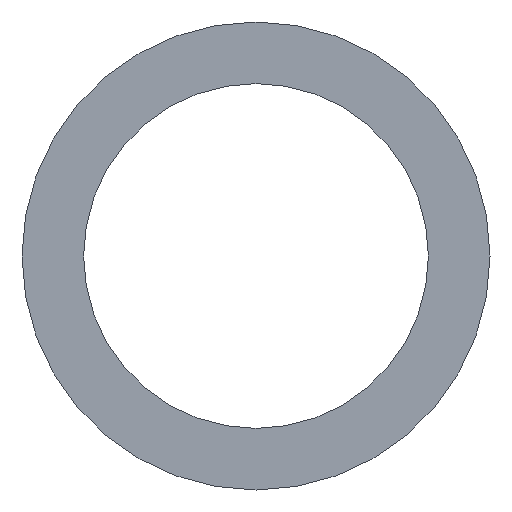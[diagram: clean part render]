
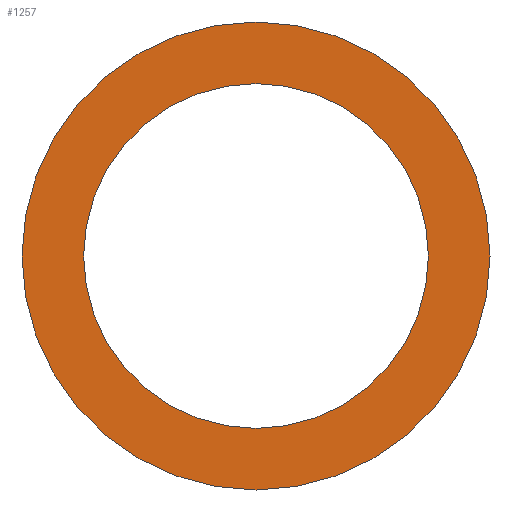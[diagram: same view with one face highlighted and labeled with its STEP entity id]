
A CAD part, front view. The second image highlights one B-rep face of the part: STEP entity #1257.
In plain terms, the highlighted planar face has unit normal (0, -1, 0).
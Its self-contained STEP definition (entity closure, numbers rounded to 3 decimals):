
#165 = CARTESIAN_POINT ( 'NONE',  ( 0., -27., 0. ) ) ;
#337 = AXIS2_PLACEMENT_3D ( 'NONE', #165, #2075, #1402 ) ;
#525 = VERTEX_POINT ( 'NONE', #2875 ) ;
#671 = CARTESIAN_POINT ( 'NONE',  ( 0., -27., 0. ) ) ;
#687 = DIRECTION ( 'NONE',  ( 0., -1., 0. ) ) ;
#698 = DIRECTION ( 'NONE',  ( 0., 0., -1. ) ) ;
#785 = AXIS2_PLACEMENT_3D ( 'NONE', #3582, #1703, #698 ) ;
#833 = CARTESIAN_POINT ( 'NONE',  ( 0., -27., 0. ) ) ;
#884 = VERTEX_POINT ( 'NONE', #3834 ) ;
#1074 = CIRCLE ( 'NONE', #2477, 95. ) ;
#1110 = EDGE_LOOP ( 'NONE', ( #2050, #3095 ) ) ;
#1155 = EDGE_LOOP ( 'NONE', ( #1565, #2563 ) ) ;
#1257 = ADVANCED_FACE ( 'NONE', ( #2657, #3444 ), #2269, .F. ) ;
#1265 = DIRECTION ( 'NONE',  ( 0., 1., 0. ) ) ;
#1402 = DIRECTION ( 'NONE',  ( 0., 0., -1. ) ) ;
#1565 = ORIENTED_EDGE ( 'NONE', *, *, #2083, .F. ) ;
#1703 = DIRECTION ( 'NONE',  ( 0., -1., 0. ) ) ;
#1824 = CIRCLE ( 'NONE', #337, 95. ) ;
#1846 = EDGE_CURVE ( 'NONE', #2296, #525, #2907, .T. ) ;
#1862 = AXIS2_PLACEMENT_3D ( 'NONE', #833, #2124, #3425 ) ;
#1935 = CARTESIAN_POINT ( 'NONE',  ( 0., -27., 70. ) ) ;
#2050 = ORIENTED_EDGE ( 'NONE', *, *, #3474, .T. ) ;
#2075 = DIRECTION ( 'NONE',  ( 0., -1., 0. ) ) ;
#2083 = EDGE_CURVE ( 'NONE', #525, #2296, #3694, .T. ) ;
#2124 = DIRECTION ( 'NONE',  ( 0., -1., 0. ) ) ;
#2231 = CARTESIAN_POINT ( 'NONE',  ( 0., -27., 70. ) ) ;
#2269 = PLANE ( 'NONE',  #3025 ) ;
#2296 = VERTEX_POINT ( 'NONE', #1935 ) ;
#2299 = DIRECTION ( 'NONE',  ( 0., 0., -1. ) ) ;
#2477 = AXIS2_PLACEMENT_3D ( 'NONE', #671, #687, #2299 ) ;
#2545 = DIRECTION ( 'NONE',  ( 0., 0., 1. ) ) ;
#2563 = ORIENTED_EDGE ( 'NONE', *, *, #1846, .F. ) ;
#2616 = VERTEX_POINT ( 'NONE', #2829 ) ;
#2657 = FACE_BOUND ( 'NONE', #1155, .T. ) ;
#2829 = CARTESIAN_POINT ( 'NONE',  ( 0., -27., 95. ) ) ;
#2875 = CARTESIAN_POINT ( 'NONE',  ( 0., -27., -70. ) ) ;
#2907 = CIRCLE ( 'NONE', #785, 70. ) ;
#3025 = AXIS2_PLACEMENT_3D ( 'NONE', #2231, #1265, #2545 ) ;
#3095 = ORIENTED_EDGE ( 'NONE', *, *, #3442, .T. ) ;
#3425 = DIRECTION ( 'NONE',  ( 0., 0., -1. ) ) ;
#3442 = EDGE_CURVE ( 'NONE', #2616, #884, #1074, .T. ) ;
#3444 = FACE_OUTER_BOUND ( 'NONE', #1110, .T. ) ;
#3474 = EDGE_CURVE ( 'NONE', #884, #2616, #1824, .T. ) ;
#3582 = CARTESIAN_POINT ( 'NONE',  ( 0., -27., 0. ) ) ;
#3694 = CIRCLE ( 'NONE', #1862, 70. ) ;
#3834 = CARTESIAN_POINT ( 'NONE',  ( 0., -27., -95. ) ) ;
